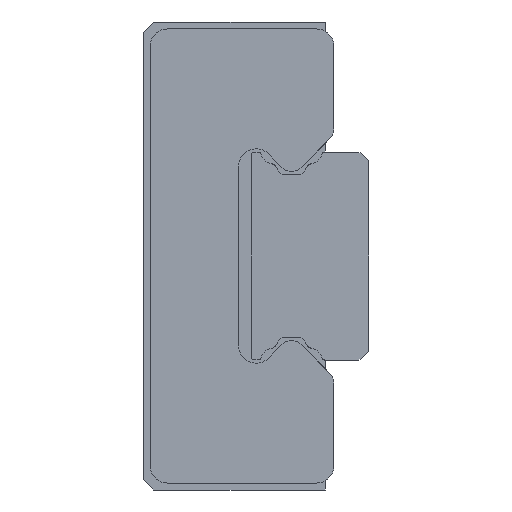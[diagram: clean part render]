
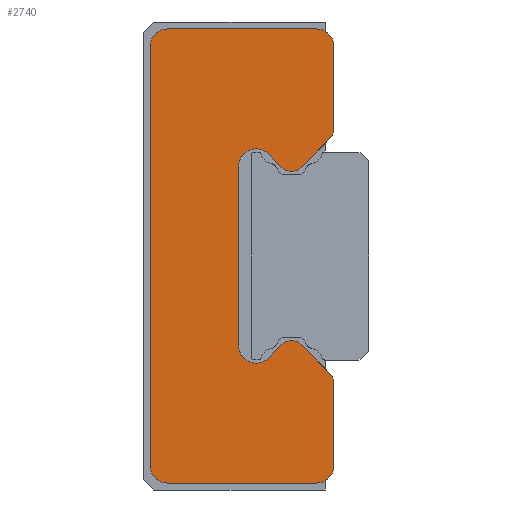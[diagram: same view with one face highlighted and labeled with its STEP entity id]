
A CAD part, left-side view. The second image highlights one B-rep face of the part: STEP entity #2740.
In plain terms, the highlighted planar face has unit normal (-1, 0, 0).
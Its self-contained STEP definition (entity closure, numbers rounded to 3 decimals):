
#172=CIRCLE('',#3027,1.);
#173=CIRCLE('',#3030,1.);
#174=CIRCLE('',#3033,1.);
#175=CIRCLE('',#3036,0.8);
#176=CIRCLE('',#3039,1.);
#177=CIRCLE('',#3042,1.);
#178=CIRCLE('',#3045,0.8);
#179=CIRCLE('',#3048,1.);
#180=CIRCLE('',#3051,1.);
#181=CIRCLE('',#3054,1.);
#983=ORIENTED_EDGE('',*,*,#1364,.F.);
#984=ORIENTED_EDGE('',*,*,#1402,.F.);
#985=ORIENTED_EDGE('',*,*,#1400,.F.);
#986=ORIENTED_EDGE('',*,*,#1398,.F.);
#987=ORIENTED_EDGE('',*,*,#1396,.F.);
#988=ORIENTED_EDGE('',*,*,#1394,.F.);
#989=ORIENTED_EDGE('',*,*,#1392,.F.);
#990=ORIENTED_EDGE('',*,*,#1390,.F.);
#991=ORIENTED_EDGE('',*,*,#1388,.F.);
#992=ORIENTED_EDGE('',*,*,#1386,.F.);
#993=ORIENTED_EDGE('',*,*,#1384,.T.);
#994=ORIENTED_EDGE('',*,*,#1382,.F.);
#995=ORIENTED_EDGE('',*,*,#1380,.T.);
#996=ORIENTED_EDGE('',*,*,#1378,.F.);
#997=ORIENTED_EDGE('',*,*,#1376,.F.);
#998=ORIENTED_EDGE('',*,*,#1374,.F.);
#999=ORIENTED_EDGE('',*,*,#1372,.F.);
#1000=ORIENTED_EDGE('',*,*,#1370,.F.);
#1001=ORIENTED_EDGE('',*,*,#1368,.F.);
#1002=ORIENTED_EDGE('',*,*,#1366,.F.);
#1364=EDGE_CURVE('',#1647,#1648,#172,.T.);
#1366=EDGE_CURVE('',#1648,#1649,#1889,.T.);
#1368=EDGE_CURVE('',#1649,#1650,#173,.T.);
#1370=EDGE_CURVE('',#1650,#1651,#1892,.T.);
#1372=EDGE_CURVE('',#1651,#1652,#174,.T.);
#1374=EDGE_CURVE('',#1652,#1653,#1895,.T.);
#1376=EDGE_CURVE('',#1653,#1654,#175,.T.);
#1378=EDGE_CURVE('',#1654,#1655,#1898,.T.);
#1380=EDGE_CURVE('',#1656,#1655,#176,.T.);
#1382=EDGE_CURVE('',#1656,#1657,#1901,.T.);
#1384=EDGE_CURVE('',#1658,#1657,#177,.T.);
#1386=EDGE_CURVE('',#1658,#1659,#1904,.T.);
#1388=EDGE_CURVE('',#1659,#1660,#178,.T.);
#1390=EDGE_CURVE('',#1660,#1661,#1907,.T.);
#1392=EDGE_CURVE('',#1661,#1662,#179,.T.);
#1394=EDGE_CURVE('',#1662,#1663,#1910,.T.);
#1396=EDGE_CURVE('',#1663,#1664,#180,.T.);
#1398=EDGE_CURVE('',#1664,#1665,#1913,.T.);
#1400=EDGE_CURVE('',#1665,#1666,#181,.T.);
#1402=EDGE_CURVE('',#1666,#1647,#1916,.T.);
#1647=VERTEX_POINT('',#4610);
#1648=VERTEX_POINT('',#4612);
#1649=VERTEX_POINT('',#4616);
#1650=VERTEX_POINT('',#4620);
#1651=VERTEX_POINT('',#4624);
#1652=VERTEX_POINT('',#4628);
#1653=VERTEX_POINT('',#4632);
#1654=VERTEX_POINT('',#4636);
#1655=VERTEX_POINT('',#4640);
#1656=VERTEX_POINT('',#4644);
#1657=VERTEX_POINT('',#4648);
#1658=VERTEX_POINT('',#4652);
#1659=VERTEX_POINT('',#4656);
#1660=VERTEX_POINT('',#4660);
#1661=VERTEX_POINT('',#4664);
#1662=VERTEX_POINT('',#4668);
#1663=VERTEX_POINT('',#4672);
#1664=VERTEX_POINT('',#4676);
#1665=VERTEX_POINT('',#4680);
#1666=VERTEX_POINT('',#4684);
#1889=LINE('',#4615,#2125);
#1892=LINE('',#4623,#2128);
#1895=LINE('',#4631,#2131);
#1898=LINE('',#4639,#2134);
#1901=LINE('',#4647,#2137);
#1904=LINE('',#4655,#2140);
#1907=LINE('',#4663,#2143);
#1910=LINE('',#4671,#2146);
#1913=LINE('',#4679,#2149);
#1916=LINE('',#4687,#2152);
#2125=VECTOR('',#3787,1000.);
#2128=VECTOR('',#3796,1000.);
#2131=VECTOR('',#3805,1000.);
#2134=VECTOR('',#3814,1000.);
#2137=VECTOR('',#3823,1000.);
#2140=VECTOR('',#3832,1000.);
#2143=VECTOR('',#3841,1000.);
#2146=VECTOR('',#3850,1000.);
#2149=VECTOR('',#3859,1000.);
#2152=VECTOR('',#3868,1000.);
#2314=EDGE_LOOP('',(#983,#984,#985,#986,#987,#988,#989,#990,#991,#992,#993,
#994,#995,#996,#997,#998,#999,#1000,#1001,#1002));
#2502=FACE_BOUND('',#2314,.T.);
#2604=PLANE('',#3056);
#2740=ADVANCED_FACE('',(#2502),#2604,.F.);
#3027=AXIS2_PLACEMENT_3D('',#4611,#3782,#3783);
#3030=AXIS2_PLACEMENT_3D('',#4619,#3791,#3792);
#3033=AXIS2_PLACEMENT_3D('',#4627,#3800,#3801);
#3036=AXIS2_PLACEMENT_3D('',#4635,#3809,#3810);
#3039=AXIS2_PLACEMENT_3D('',#4643,#3818,#3819);
#3042=AXIS2_PLACEMENT_3D('',#4651,#3827,#3828);
#3045=AXIS2_PLACEMENT_3D('',#4659,#3836,#3837);
#3048=AXIS2_PLACEMENT_3D('',#4667,#3845,#3846);
#3051=AXIS2_PLACEMENT_3D('',#4675,#3854,#3855);
#3054=AXIS2_PLACEMENT_3D('',#4683,#3863,#3864);
#3056=AXIS2_PLACEMENT_3D('',#4688,#3869,#3870);
#3782=DIRECTION('',(1.,0.,0.));
#3783=DIRECTION('',(0.,0.,-1.));
#3787=DIRECTION('',(0.,-1.,0.));
#3791=DIRECTION('',(1.,0.,0.));
#3792=DIRECTION('',(0.,0.,-1.));
#3796=DIRECTION('',(0.,0.,-1.));
#3800=DIRECTION('',(1.,0.,0.));
#3801=DIRECTION('',(0.,0.,-1.));
#3805=DIRECTION('',(0.,0.707,-0.707));
#3809=DIRECTION('',(1.,0.,0.));
#3810=DIRECTION('',(0.,0.,-1.));
#3814=DIRECTION('',(0.,0.707,0.707));
#3818=DIRECTION('',(1.,0.,0.));
#3819=DIRECTION('',(0.,0.,-1.));
#3823=DIRECTION('',(0.,0.,-1.));
#3827=DIRECTION('',(1.,0.,0.));
#3828=DIRECTION('',(0.,0.,-1.));
#3832=DIRECTION('',(0.,-0.707,0.707));
#3836=DIRECTION('',(1.,0.,0.));
#3837=DIRECTION('',(0.,0.,-1.));
#3841=DIRECTION('',(0.,-0.707,-0.707));
#3845=DIRECTION('',(1.,0.,0.));
#3846=DIRECTION('',(0.,0.,-1.));
#3850=DIRECTION('',(0.,0.,-1.));
#3854=DIRECTION('',(1.,0.,0.));
#3855=DIRECTION('',(0.,0.,-1.));
#3859=DIRECTION('',(0.,1.,0.));
#3863=DIRECTION('',(1.,0.,0.));
#3864=DIRECTION('',(0.,0.,-1.));
#3868=DIRECTION('',(0.,0.,1.));
#3869=DIRECTION('',(1.,0.,0.));
#3870=DIRECTION('',(0.,0.,-1.));
#4610=CARTESIAN_POINT('',(-21.85,-0.4,12.1));
#4611=CARTESIAN_POINT('',(-21.85,-1.4,12.1));
#4612=CARTESIAN_POINT('',(-21.85,-1.4,13.1));
#4615=CARTESIAN_POINT('',(-21.85,-1.4,13.1));
#4616=CARTESIAN_POINT('',(-21.85,-10.,13.1));
#4619=CARTESIAN_POINT('',(-21.85,-10.,12.1));
#4620=CARTESIAN_POINT('',(-21.85,-11.,12.1));
#4623=CARTESIAN_POINT('',(-21.85,-11.,12.1));
#4624=CARTESIAN_POINT('',(-21.85,-11.,7.414));
#4627=CARTESIAN_POINT('',(-21.85,-10.,7.414));
#4628=CARTESIAN_POINT('',(-21.85,-10.707,6.707));
#4631=CARTESIAN_POINT('',(-21.85,-10.707,6.707));
#4632=CARTESIAN_POINT('',(-21.85,-9.116,5.116));
#4635=CARTESIAN_POINT('',(-21.85,-8.55,5.681));
#4636=CARTESIAN_POINT('',(-21.85,-7.984,5.116));
#4639=CARTESIAN_POINT('',(-21.85,-7.984,5.116));
#4640=CARTESIAN_POINT('',(-21.85,-7.207,5.893));
#4643=CARTESIAN_POINT('',(-21.85,-6.5,5.186));
#4644=CARTESIAN_POINT('',(-21.85,-5.5,5.186));
#4647=CARTESIAN_POINT('',(-21.85,-5.5,5.186));
#4648=CARTESIAN_POINT('',(-21.85,-5.5,-5.186));
#4651=CARTESIAN_POINT('',(-21.85,-6.5,-5.186));
#4652=CARTESIAN_POINT('',(-21.85,-7.207,-5.893));
#4655=CARTESIAN_POINT('',(-21.85,-7.207,-5.893));
#4656=CARTESIAN_POINT('',(-21.85,-7.984,-5.116));
#4659=CARTESIAN_POINT('',(-21.85,-8.55,-5.681));
#4660=CARTESIAN_POINT('',(-21.85,-9.116,-5.116));
#4663=CARTESIAN_POINT('',(-21.85,-9.116,-5.116));
#4664=CARTESIAN_POINT('',(-21.85,-10.707,-6.707));
#4667=CARTESIAN_POINT('',(-21.85,-10.,-7.414));
#4668=CARTESIAN_POINT('',(-21.85,-11.,-7.414));
#4671=CARTESIAN_POINT('',(-21.85,-11.,-7.414));
#4672=CARTESIAN_POINT('',(-21.85,-11.,-12.1));
#4675=CARTESIAN_POINT('',(-21.85,-10.,-12.1));
#4676=CARTESIAN_POINT('',(-21.85,-10.,-13.1));
#4679=CARTESIAN_POINT('',(-21.85,-10.,-13.1));
#4680=CARTESIAN_POINT('',(-21.85,-1.4,-13.1));
#4683=CARTESIAN_POINT('',(-21.85,-1.4,-12.1));
#4684=CARTESIAN_POINT('',(-21.85,-0.4,-12.1));
#4687=CARTESIAN_POINT('',(-21.85,-0.4,-12.1));
#4688=CARTESIAN_POINT('',(-21.85,-1.4,12.1));
